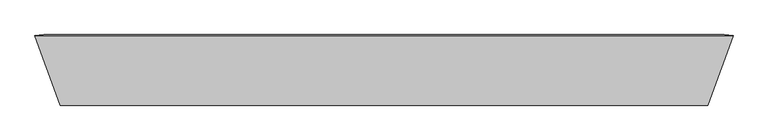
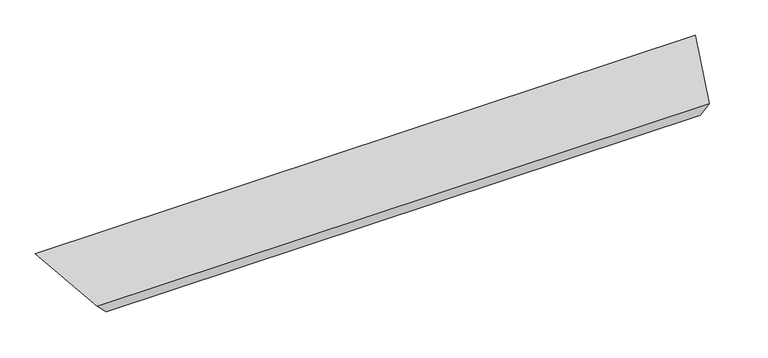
"""IFC4 building model written with IfcOpenShell, lengths in millimetres: proxy geometry, GRADIENT^TABLE 5_PRISM BASE-FRONT BOTTOM."""

from ifc_helpers import new_model, si_unit, origin, place, context, project, spatial, faceted_brep, source, transform, mapped, element, save


def generic_models_e70f2707(model_context):
    return source(origin(), model_context, "Body", "Brep", [
        faceted_brep([(457.2, -558.8, -355.6), (476.846963, -557.0811135, -375.246963), (532.9416503, -711.2, -431.3416503), (512.6690637, -711.2, -411.0690637), (1905.4583497, -711.2, -431.3416503), (1925.7309363, -711.2, -411.0690637), (1981.2, -558.8, -355.6), (1961.553037, -557.0811135, -375.246963)], [[[0, 1, 2, 3]], [[3, 2, 4, 5]], [[1, 0, 6, 7]], [[2, 1, 7, 4]], [[7, 6, 5, 4]], [[0, 3, 5, 6]]]),
    ])


if __name__ == "__main__":
    model = new_model("IFC4")
    model_context = context("Model", 3, world=origin())
    ifc_project = project(units=[si_unit("LENGTHUNIT", "METRE", prefix="MILLI")], contexts=[model_context])
    site = spatial("IfcSite", under=ifc_project)
    building = spatial("IfcBuilding", under=site)
    placement = place(None, origin())
    generic_models_shape = generic_models_e70f2707(model_context)
    element("IfcBuildingElementProxy", 1, Name="GRADIENT^TABLE 5_PRISM BASE-FRONT BOTTOM", ObjectType="GRADIENT^TABLE 5_PRISM BASE-FRONT BOTTOM", at=placement, inside=building, context=model_context, shape_type="MappedRepresentation", body=[
        mapped(generic_models_shape, transform((0.0, 0.0, 0.0), x_axis=(1.0, 0.0, 0.0), y_axis=(0.0, 1.0, 0.0), z_axis=(0.0, 0.0, 1.0))),
    ])
    save(model, "model.ifc")
